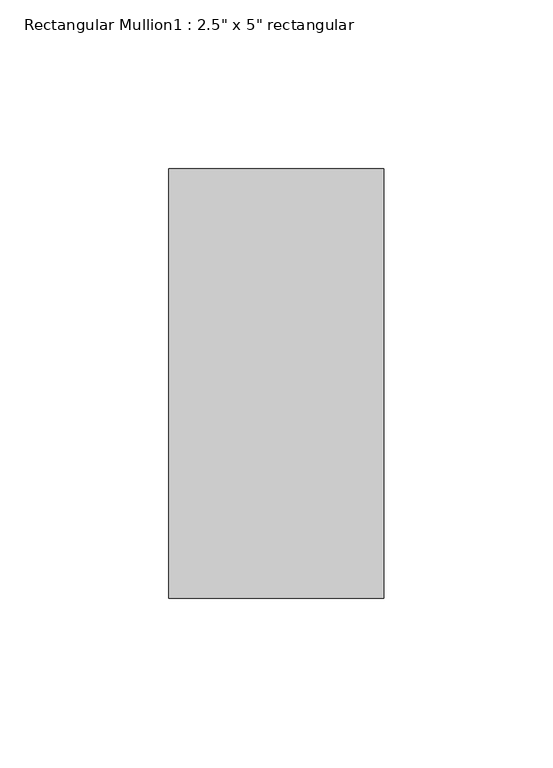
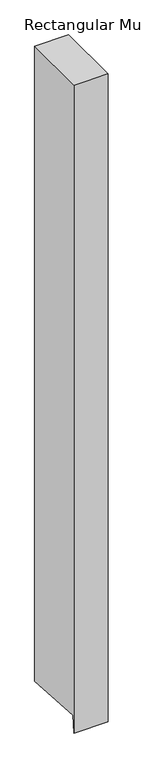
"""IFC4 building model written with IfcOpenShell, lengths in millimetres: member geometry."""

from ifc_helpers import new_model, si_unit, frame, origin, place, context, project, spatial, polyline, outline, extrude, source, transform, mapped, element, save


def member_2ae322fc(model_context):
    return source(origin(), model_context, "Body", "SweptSolid", [
        extrude(outline(polyline([(-63.5, 0.0), (63.5, 0.0), (63.5, -1253.5867756), (-61.1522336, -1244.9455147), (-63.5, -1278.8126009), (-63.5, 0.0)])), frame((-63.5, 0.0, 0.0), z_axis=(1.0, 0.0, 0.0), x_axis=(0.0, 1.0, 0.0)), (0.0, 0.0, 1.0), 63.5),
    ])


if __name__ == "__main__":
    model = new_model("IFC4")
    model_context = context("Model", 3, world=origin())
    ifc_project = project(units=[si_unit("LENGTHUNIT", "METRE", prefix="MILLI")], contexts=[model_context])
    site = spatial("IfcSite", under=ifc_project)
    building = spatial("IfcBuilding", under=site)
    placement = place(None, origin())
    member_shape = member_2ae322fc(model_context)
    element("IfcMember", 1, ObjectType="Rectangular Mullion1 : 2.5\" x 5\" rectangular", at=placement, inside=building, context=model_context, shape_type="MappedRepresentation", body=[
        mapped(member_shape, transform((0.0, 0.0, 0.0), x_axis=(1.0, 0.0, 0.0), y_axis=(0.0, 1.0, 0.0), z_axis=(0.0, 0.0, 1.0))),
    ])
    save(model, "model.ifc")
